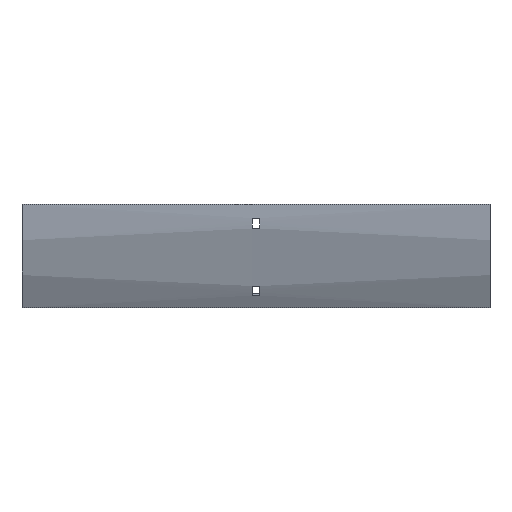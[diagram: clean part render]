
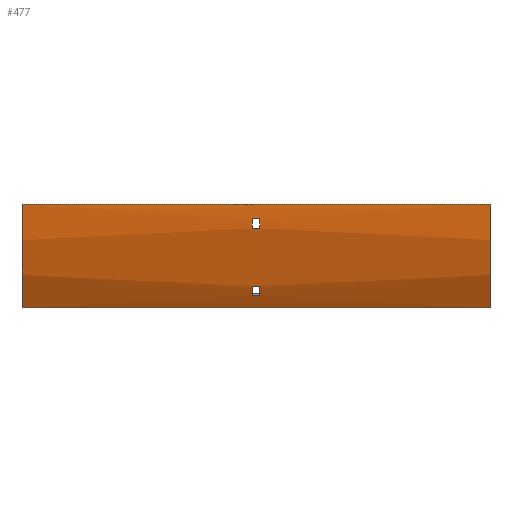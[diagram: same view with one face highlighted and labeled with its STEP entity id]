
A CAD part, front view. The second image highlights one B-rep face of the part: STEP entity #477.
In plain terms, the highlighted cylindrical face has radius 179 mm (diameter 358 mm), a partial arc.
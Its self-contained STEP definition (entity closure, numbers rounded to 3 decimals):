
#18 = LINE ( 'NONE', #814, #722 ) ;
#40 = LINE ( 'NONE', #1593, #1249 ) ;
#42 = VECTOR ( 'NONE', #1561, 1000. ) ;
#49 = CARTESIAN_POINT ( 'NONE',  ( -202., 100., 0. ) ) ;
#116 = DIRECTION ( 'NONE',  ( -1., 0., 0. ) ) ;
#148 = DIRECTION ( 'NONE',  ( 0., 0., -1. ) ) ;
#169 = AXIS2_PLACEMENT_3D ( 'NONE', #818, #960, #148 ) ;
#175 = EDGE_CURVE ( 'NONE', #252, #913, #400, .T. ) ;
#184 = CARTESIAN_POINT ( 'NONE',  ( 202., -78.597, -12. ) ) ;
#199 = VECTOR ( 'NONE', #116, 1000. ) ;
#216 = EDGE_CURVE ( 'NONE', #922, #223, #616, .T. ) ;
#217 = ORIENTED_EDGE ( 'NONE', *, *, #1218, .T. ) ;
#218 = AXIS2_PLACEMENT_3D ( 'NONE', #1442, #1293, #1680 ) ;
#223 = VERTEX_POINT ( 'NONE', #1251 ) ;
#252 = VERTEX_POINT ( 'NONE', #1615 ) ;
#254 = CIRCLE ( 'NONE', #603, 179. ) ;
#311 = DIRECTION ( 'NONE',  ( 1., 0., 0. ) ) ;
#315 = ORIENTED_EDGE ( 'NONE', *, *, #1648, .F. ) ;
#385 = AXIS2_PLACEMENT_3D ( 'NONE', #1687, #503, #925 ) ;
#400 = CIRCLE ( 'NONE', #1228, 179. ) ;
#402 = ORIENTED_EDGE ( 'NONE', *, *, #602, .T. ) ;
#435 = ORIENTED_EDGE ( 'NONE', *, *, #1571, .F. ) ;
#450 = DIRECTION ( 'NONE',  ( 1., 0., 0. ) ) ;
#477 = ADVANCED_FACE ( 'NONE', ( #1167, #1323, #659 ), #785, .T. ) ;
#503 = DIRECTION ( 'NONE',  ( -1., 0., 0. ) ) ;
#538 = ORIENTED_EDGE ( 'NONE', *, *, #805, .F. ) ;
#550 = VERTEX_POINT ( 'NONE', #573 ) ;
#553 = DIRECTION ( 'NONE',  ( 1., 0., 0. ) ) ;
#566 = CIRCLE ( 'NONE', #218, 179. ) ;
#573 = CARTESIAN_POINT ( 'NONE',  ( 202., -55.019, -89.5 ) ) ;
#575 = DIRECTION ( 'NONE',  ( 0., 0., -1. ) ) ;
#584 = CARTESIAN_POINT ( 'NONE',  ( -3.25, -60.67, -78.906 ) ) ;
#595 = DIRECTION ( 'NONE',  ( -1., 0., 0. ) ) ;
#602 = EDGE_CURVE ( 'NONE', #1544, #922, #1355, .T. ) ;
#603 = AXIS2_PLACEMENT_3D ( 'NONE', #1369, #1609, #1604 ) ;
#616 = CIRCLE ( 'NONE', #848, 179. ) ;
#626 = ORIENTED_EDGE ( 'NONE', *, *, #1465, .F. ) ;
#648 = DIRECTION ( 'NONE',  ( -1., 0., 0. ) ) ;
#659 = FACE_BOUND ( 'NONE', #1070, .T. ) ;
#686 = CARTESIAN_POINT ( 'NONE',  ( 3.25, 100., 0. ) ) ;
#722 = VECTOR ( 'NONE', #1590, 1000. ) ;
#744 = ORIENTED_EDGE ( 'NONE', *, *, #1689, .F. ) ;
#755 = VERTEX_POINT ( 'NONE', #1032 ) ;
#780 = CARTESIAN_POINT ( 'NONE',  ( -3.25, -64.448, -70.695 ) ) ;
#785 = CYLINDRICAL_SURFACE ( 'NONE', #385, 179. ) ;
#786 = CARTESIAN_POINT ( 'NONE',  ( -3.25, 100., 0. ) ) ;
#790 = VERTEX_POINT ( 'NONE', #780 ) ;
#805 = EDGE_CURVE ( 'NONE', #1483, #550, #566, .T. ) ;
#814 = CARTESIAN_POINT ( 'NONE',  ( 202., -77.764, -21. ) ) ;
#818 = CARTESIAN_POINT ( 'NONE',  ( -3.25, 100., 0. ) ) ;
#835 = VECTOR ( 'NONE', #595, 1000. ) ;
#848 = AXIS2_PLACEMENT_3D ( 'NONE', #686, #553, #1367 ) ;
#849 = CARTESIAN_POINT ( 'NONE',  ( -3.25, -78.597, -12. ) ) ;
#861 = EDGE_CURVE ( 'NONE', #1429, #1544, #1273, .T. ) ;
#913 = VERTEX_POINT ( 'NONE', #957 ) ;
#915 = CIRCLE ( 'NONE', #169, 179. ) ;
#922 = VERTEX_POINT ( 'NONE', #1184 ) ;
#925 = DIRECTION ( 'NONE',  ( 0., 0., 1. ) ) ;
#950 = EDGE_CURVE ( 'NONE', #223, #1429, #18, .T. ) ;
#957 = CARTESIAN_POINT ( 'NONE',  ( -202., -55.019, -89.5 ) ) ;
#960 = DIRECTION ( 'NONE',  ( 1., 0., 0. ) ) ;
#996 = AXIS2_PLACEMENT_3D ( 'NONE', #786, #648, #1580 ) ;
#1032 = CARTESIAN_POINT ( 'NONE',  ( 3.25, -64.448, -70.695 ) ) ;
#1036 = EDGE_LOOP ( 'NONE', ( #1332, #1602, #402, #1172 ) ) ;
#1053 = LINE ( 'NONE', #1282, #199 ) ;
#1070 = EDGE_LOOP ( 'NONE', ( #626, #435, #1372, #744 ) ) ;
#1078 = CARTESIAN_POINT ( 'NONE',  ( -3.25, -77.764, -21. ) ) ;
#1093 = VERTEX_POINT ( 'NONE', #584 ) ;
#1132 = VECTOR ( 'NONE', #450, 1000. ) ;
#1146 = LINE ( 'NONE', #1422, #42 ) ;
#1167 = FACE_OUTER_BOUND ( 'NONE', #1253, .T. ) ;
#1172 = ORIENTED_EDGE ( 'NONE', *, *, #216, .T. ) ;
#1178 = CARTESIAN_POINT ( 'NONE',  ( 3.25, -60.67, -78.906 ) ) ;
#1180 = VERTEX_POINT ( 'NONE', #1178 ) ;
#1184 = CARTESIAN_POINT ( 'NONE',  ( 3.25, -78.597, -12. ) ) ;
#1218 = EDGE_CURVE ( 'NONE', #1483, #252, #1146, .T. ) ;
#1228 = AXIS2_PLACEMENT_3D ( 'NONE', #49, #311, #575 ) ;
#1233 = CARTESIAN_POINT ( 'NONE',  ( 202., -64.448, -70.695 ) ) ;
#1249 = VECTOR ( 'NONE', #1463, 1000. ) ;
#1251 = CARTESIAN_POINT ( 'NONE',  ( 3.25, -77.764, -21. ) ) ;
#1253 = EDGE_LOOP ( 'NONE', ( #1343, #315, #538, #217 ) ) ;
#1273 = CIRCLE ( 'NONE', #996, 179. ) ;
#1282 = CARTESIAN_POINT ( 'NONE',  ( 202., -55.019, -89.5 ) ) ;
#1293 = DIRECTION ( 'NONE',  ( 1., 0., 0. ) ) ;
#1323 = FACE_BOUND ( 'NONE', #1036, .T. ) ;
#1332 = ORIENTED_EDGE ( 'NONE', *, *, #950, .T. ) ;
#1343 = ORIENTED_EDGE ( 'NONE', *, *, #175, .T. ) ;
#1355 = LINE ( 'NONE', #184, #1132 ) ;
#1367 = DIRECTION ( 'NONE',  ( 0., 0., -1. ) ) ;
#1369 = CARTESIAN_POINT ( 'NONE',  ( 3.25, 100., 0. ) ) ;
#1372 = ORIENTED_EDGE ( 'NONE', *, *, #1443, .F. ) ;
#1380 = LINE ( 'NONE', #1233, #835 ) ;
#1422 = CARTESIAN_POINT ( 'NONE',  ( 202., -79., 0. ) ) ;
#1429 = VERTEX_POINT ( 'NONE', #1078 ) ;
#1442 = CARTESIAN_POINT ( 'NONE',  ( 202., 100., 0. ) ) ;
#1443 = EDGE_CURVE ( 'NONE', #1180, #755, #254, .T. ) ;
#1463 = DIRECTION ( 'NONE',  ( 1., 0., 0. ) ) ;
#1464 = CARTESIAN_POINT ( 'NONE',  ( 202., -79., 0. ) ) ;
#1465 = EDGE_CURVE ( 'NONE', #790, #1093, #915, .T. ) ;
#1483 = VERTEX_POINT ( 'NONE', #1464 ) ;
#1544 = VERTEX_POINT ( 'NONE', #849 ) ;
#1561 = DIRECTION ( 'NONE',  ( -1., 0., 0. ) ) ;
#1571 = EDGE_CURVE ( 'NONE', #755, #790, #1380, .T. ) ;
#1580 = DIRECTION ( 'NONE',  ( 0., 0., 1. ) ) ;
#1590 = DIRECTION ( 'NONE',  ( -1., 0., 0. ) ) ;
#1593 = CARTESIAN_POINT ( 'NONE',  ( 202., -60.67, -78.906 ) ) ;
#1602 = ORIENTED_EDGE ( 'NONE', *, *, #861, .T. ) ;
#1604 = DIRECTION ( 'NONE',  ( 0., 0., 1. ) ) ;
#1609 = DIRECTION ( 'NONE',  ( -1., 0., 0. ) ) ;
#1615 = CARTESIAN_POINT ( 'NONE',  ( -202., -79., 0. ) ) ;
#1648 = EDGE_CURVE ( 'NONE', #550, #913, #1053, .T. ) ;
#1680 = DIRECTION ( 'NONE',  ( 0., 0., -1. ) ) ;
#1687 = CARTESIAN_POINT ( 'NONE',  ( 202., 100., 0. ) ) ;
#1689 = EDGE_CURVE ( 'NONE', #1093, #1180, #40, .T. ) ;
